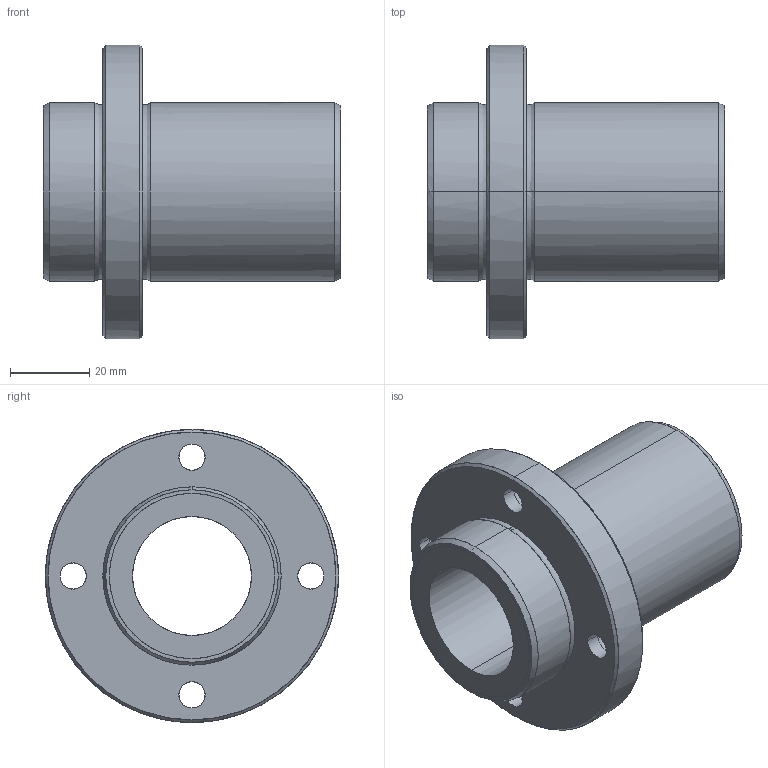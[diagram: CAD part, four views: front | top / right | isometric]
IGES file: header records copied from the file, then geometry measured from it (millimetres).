
Global section: file name: No Iges File Name specified; native system: AutoDesk Inventor R11.0; preprocessor: AutoDesk Inventor Iges Exporter R11.0; author: No Author specified; organization: No Organization specified; date: 20170921.132306; units: millimetre
Bounding box: 75 x 74 x 74 mm (x, y, z)
Surface area: 26472.6 mm2 (no closed solid volume)
Topology: 0 solids, 0 shells, 50 faces, 352 edges, 352 vertices
Faces by surface type: bspline 50
